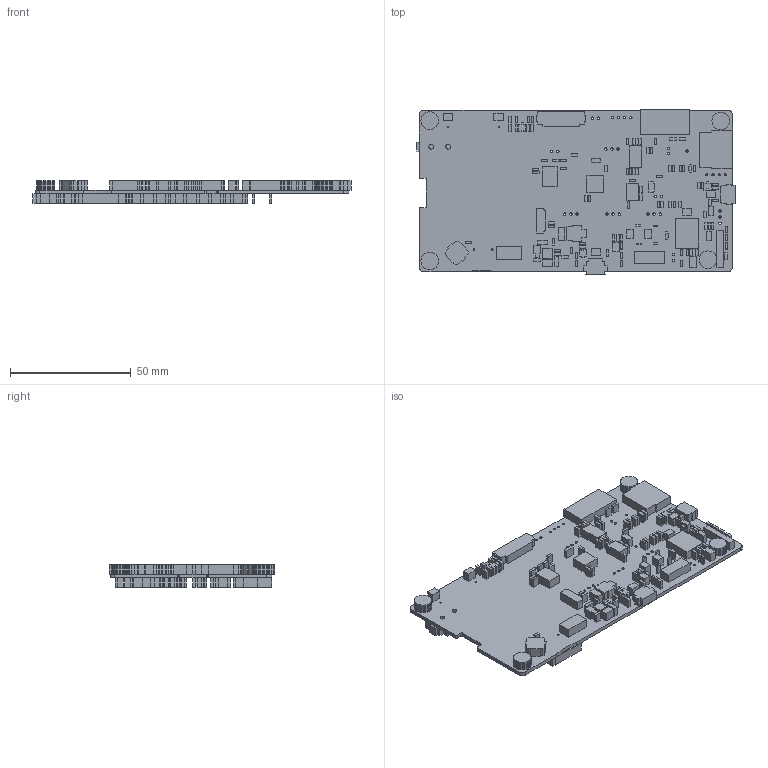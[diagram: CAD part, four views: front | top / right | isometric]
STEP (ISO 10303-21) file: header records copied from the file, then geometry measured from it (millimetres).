
FILE_DESCRIPTION(('Open CASCADE Model'),'2;1');
FILE_NAME('Open CASCADE Shape Model','2024-07-15T14:17:01',('Author'),( 'Open CASCADE'),'Open CASCADE STEP processor 7.5','Open CASCADE 7.5' ,'Unknown');
FILE_SCHEMA(('AUTOMOTIVE_DESIGN { 1 0 10303 214 1 1 1 1 }'));
Length unit declared in the file: millimetre
Products named in the file (309): PCB; Board; Open CASCADE STEP translator 7.5 1.1.1; U13; 7251077264; Extruded; U12; L3; 7251077024; L2; SW1; 7251079504; H1; 7251075424; H3; H4; H2; U20; 7251069984; U19; Z1; 7251073584; CN7; 7251076304; JP7; 7251075984; CN3; 7251078224; CN2; 7251078064; CN1; 7251079664; U4; 7251076784; U5; 7251076624; X2; 7251077904; U15; 7251076144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
Assembly tree (458 placements, depth 4):
  PCB
    Board
      Open CASCADE STEP translator 7.5 1.1.1
    U13
      7251077264
        Extruded
    U12
      7251077264
        Extruded
    L3
      7251077024
        Extruded
    L2
      7251077024
        Extruded
    SW1
      7251079504
        Extruded
    H1
      7251075424
        Extruded
    H3
      7251075424
        Extruded
    H4
      7251075424
        Extruded
    H2
      7251075424
        Extruded
    U20
      7251069984
        Extruded
    U19
      7251069984
        Extruded
    Z1
      7251073584
        Extruded
    CN7
      7251076304
        Extruded
    JP7
      7251075984
        Extruded
    CN3
      7251078224
        Extruded
    CN2
      7251078064
        Extruded
    CN1
      7251079664
        Extruded
    U4
      7251076784
        Extruded
    U5
      7251076624
        Extruded
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Bounding box: 131.92 x 68.73 x 9.2 mm (x, y, z)
Volume: 24318.8 mm3; surface area: 33914 mm2
Topology: 203 solids, 203 shells, 1841 faces, 4305 edges, 2870 vertices
Faces by surface type: plane 1712, cylinder 129
Full cylindrical faces by diameter (mm): 0.508 x2, 0.712 x3, 0.838 x2, 0.914 x50, 0.99 x4, 1.016 x41, 2.006 x2, 3.506 x4
Entity records: 31334 total; most frequent: DIRECTION 4778, CARTESIAN_POINT 4633, ORIENTED_EDGE 4068, EDGE_CURVE 2034, LINE 1776, VECTOR 1776, AXIS2_PLACEMENT_3D 1501, VERTEX_POINT 1356
